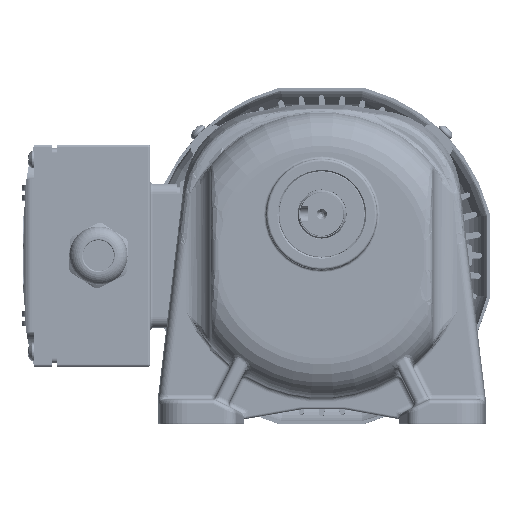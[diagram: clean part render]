
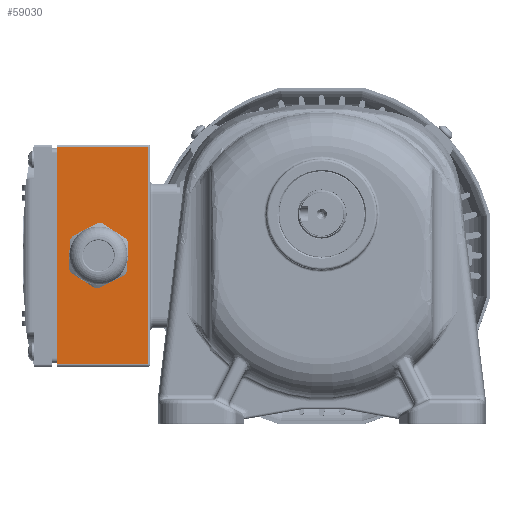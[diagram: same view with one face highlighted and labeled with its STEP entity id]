
A CAD part, top view. The second image highlights one B-rep face of the part: STEP entity #59030.
In plain terms, the highlighted planar face has unit normal (0, 0, 1).
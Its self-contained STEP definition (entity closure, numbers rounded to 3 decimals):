
#1074=LINE('',#90215,#4193);
#1098=LINE('',#90327,#4217);
#1099=LINE('',#90329,#4218);
#1100=LINE('',#90331,#4219);
#1101=LINE('',#90333,#4220);
#1102=LINE('',#90335,#4221);
#1677=LINE('',#92358,#4796);
#1679=LINE('',#92373,#4798);
#1681=LINE('',#92379,#4800);
#1682=LINE('',#92380,#4801);
#4193=VECTOR('',#70959,10.);
#4217=VECTOR('',#71061,10.);
#4218=VECTOR('',#71064,10.);
#4219=VECTOR('',#71067,10.);
#4220=VECTOR('',#71070,10.);
#4221=VECTOR('',#71073,10.);
#4796=VECTOR('',#72746,10.);
#4798=VECTOR('',#72768,10.);
#4800=VECTOR('',#72774,10.);
#4801=VECTOR('',#72775,10.);
#10858=FACE_BOUND('',#15782,.T.);
#11891=FACE_OUTER_BOUND('',#15781,.T.);
#15781=EDGE_LOOP('',(#40215,#40216,#40217,#40218));
#15782=EDGE_LOOP('',(#40219,#40220,#40221,#40222,#40223,#40224,#40225,#40226,
#40227,#40228,#40229,#40230));
#19568=CIRCLE('',#62769,13.);
#19570=CIRCLE('',#62772,13.);
#19572=CIRCLE('',#62775,13.);
#19574=CIRCLE('',#62778,13.);
#19576=CIRCLE('',#62781,13.);
#19578=CIRCLE('',#62784,13.);
#23406=VERTEX_POINT('',#90161);
#23408=VERTEX_POINT('',#90165);
#23410=VERTEX_POINT('',#90170);
#23412=VERTEX_POINT('',#90174);
#23414=VERTEX_POINT('',#90179);
#23416=VERTEX_POINT('',#90183);
#23418=VERTEX_POINT('',#90188);
#23420=VERTEX_POINT('',#90192);
#23422=VERTEX_POINT('',#90197);
#23424=VERTEX_POINT('',#90201);
#23426=VERTEX_POINT('',#90206);
#23428=VERTEX_POINT('',#90210);
#24053=VERTEX_POINT('',#92354);
#24054=VERTEX_POINT('',#92356);
#24057=VERTEX_POINT('',#92372);
#24059=VERTEX_POINT('',#92378);
#29141=EDGE_CURVE('',#23406,#23408,#19568,.T.);
#29145=EDGE_CURVE('',#23410,#23412,#19570,.T.);
#29149=EDGE_CURVE('',#23414,#23416,#19572,.T.);
#29153=EDGE_CURVE('',#23418,#23420,#19574,.T.);
#29157=EDGE_CURVE('',#23422,#23424,#19576,.T.);
#29161=EDGE_CURVE('',#23426,#23428,#19578,.T.);
#29163=EDGE_CURVE('',#23428,#23406,#1074,.T.);
#29212=EDGE_CURVE('',#23408,#23410,#1098,.T.);
#29213=EDGE_CURVE('',#23424,#23426,#1099,.T.);
#29214=EDGE_CURVE('',#23420,#23422,#1100,.T.);
#29215=EDGE_CURVE('',#23416,#23418,#1101,.T.);
#29216=EDGE_CURVE('',#23412,#23414,#1102,.T.);
#30072=EDGE_CURVE('',#24054,#24053,#1677,.T.);
#30079=EDGE_CURVE('',#24053,#24057,#1679,.T.);
#30082=EDGE_CURVE('',#24059,#24054,#1681,.T.);
#30083=EDGE_CURVE('',#24059,#24057,#1682,.T.);
#40215=ORIENTED_EDGE('',*,*,#30072,.F.);
#40216=ORIENTED_EDGE('',*,*,#30082,.F.);
#40217=ORIENTED_EDGE('',*,*,#30083,.T.);
#40218=ORIENTED_EDGE('',*,*,#30079,.F.);
#40219=ORIENTED_EDGE('',*,*,#29161,.T.);
#40220=ORIENTED_EDGE('',*,*,#29163,.T.);
#40221=ORIENTED_EDGE('',*,*,#29141,.T.);
#40222=ORIENTED_EDGE('',*,*,#29212,.T.);
#40223=ORIENTED_EDGE('',*,*,#29145,.T.);
#40224=ORIENTED_EDGE('',*,*,#29216,.T.);
#40225=ORIENTED_EDGE('',*,*,#29149,.T.);
#40226=ORIENTED_EDGE('',*,*,#29215,.T.);
#40227=ORIENTED_EDGE('',*,*,#29153,.T.);
#40228=ORIENTED_EDGE('',*,*,#29214,.T.);
#40229=ORIENTED_EDGE('',*,*,#29157,.T.);
#40230=ORIENTED_EDGE('',*,*,#29213,.T.);
#55081=PLANE('',#63389);
#59030=ADVANCED_FACE('',(#11891,#10858),#55081,.T.);
#62769=AXIS2_PLACEMENT_3D('',#90167,#70914,#70915);
#62772=AXIS2_PLACEMENT_3D('',#90176,#70922,#70923);
#62775=AXIS2_PLACEMENT_3D('',#90185,#70930,#70931);
#62778=AXIS2_PLACEMENT_3D('',#90194,#70938,#70939);
#62781=AXIS2_PLACEMENT_3D('',#90203,#70946,#70947);
#62784=AXIS2_PLACEMENT_3D('',#90212,#70954,#70955);
#63389=AXIS2_PLACEMENT_3D('',#92377,#72772,#72773);
#70914=DIRECTION('center_axis',(0.,0.,
-1.));
#70915=DIRECTION('ref_axis',(-0.051,-0.999,0.));
#70922=DIRECTION('center_axis',(0.,0.,
-1.));
#70923=DIRECTION('ref_axis',(-0.051,-0.999,0.));
#70930=DIRECTION('center_axis',(0.,0.,
-1.));
#70931=DIRECTION('ref_axis',(-0.051,-0.999,0.));
#70938=DIRECTION('center_axis',(0.,0.,
-1.));
#70939=DIRECTION('ref_axis',(-0.051,-0.999,0.));
#70946=DIRECTION('center_axis',(0.,0.,
-1.));
#70947=DIRECTION('ref_axis',(-0.051,-0.999,0.));
#70954=DIRECTION('center_axis',(0.,0.,
-1.));
#70955=DIRECTION('ref_axis',(-0.051,-0.999,0.));
#70959=DIRECTION('',(0.051,0.999,0.));
#71061=DIRECTION('',(0.891,0.455,0.));
#71064=DIRECTION('',(-0.839,0.544,0.));
#71067=DIRECTION('',(-0.891,-0.455,0.));
#71070=DIRECTION('',(-0.051,-0.999,0.));
#71073=DIRECTION('',(0.839,-0.544,0.));
#72746=DIRECTION('',(0.,-1.,0.));
#72768=DIRECTION('',(-1.,0.,0.));
#72772=DIRECTION('center_axis',(0.,0.,
1.));
#72773=DIRECTION('ref_axis',(1.,0.,0.));
#72774=DIRECTION('',(1.,0.,0.));
#72775=DIRECTION('',(0.,-1.,0.));
#90161=CARTESIAN_POINT('',(-82.345,13.865,-84.));
#90165=CARTESIAN_POINT('',(-80.936,16.039,-84.));
#90167=CARTESIAN_POINT('Origin',(-70.786,7.916,-84.));
#90170=CARTESIAN_POINT('',(-71.414,20.901,-84.));
#90174=CARTESIAN_POINT('',(-68.827,20.768,-84.));
#90176=CARTESIAN_POINT('Origin',(-70.786,7.916,-84.));
#90179=CARTESIAN_POINT('',(-59.855,14.953,-84.));
#90183=CARTESIAN_POINT('',(-58.676,12.645,-84.));
#90185=CARTESIAN_POINT('Origin',(-70.786,7.916,-84.));
#90188=CARTESIAN_POINT('',(-59.226,1.968,-84.));
#90192=CARTESIAN_POINT('',(-60.635,-0.206,-84.));
#90194=CARTESIAN_POINT('Origin',(-70.786,7.916,-84.));
#90197=CARTESIAN_POINT('',(-70.157,-5.069,-84.));
#90201=CARTESIAN_POINT('',(-72.745,-4.935,-84.));
#90203=CARTESIAN_POINT('Origin',(-70.786,7.916,-84.));
#90206=CARTESIAN_POINT('',(-81.717,0.88,-84.));
#90210=CARTESIAN_POINT('',(-82.895,3.187,-84.));
#90212=CARTESIAN_POINT('Origin',(-70.786,7.916,-84.));
#90215=CARTESIAN_POINT('',(-81.26,34.922,-84.));
#90327=CARTESIAN_POINT('',(-55.687,28.932,-84.));
#90329=CARTESIAN_POINT('',(-82.976,1.696,-84.));
#90331=CARTESIAN_POINT('',(-51.001,4.714,-84.));
#90333=CARTESIAN_POINT('',(-57.944,26.87,-84.));
#90335=CARTESIAN_POINT('',(-64.345,17.863,-84.));
#92354=CARTESIAN_POINT('',(-50.786,-36.084,-84.));
#92356=CARTESIAN_POINT('',(-50.786,51.916,-84.));
#92358=CARTESIAN_POINT('',(-50.786,30.416,-84.));
#92372=CARTESIAN_POINT('',(-87.786,-36.084,-84.));
#92373=CARTESIAN_POINT('',(-49.786,-36.084,-84.));
#92377=CARTESIAN_POINT('Origin',(-49.786,52.916,-84.));
#92378=CARTESIAN_POINT('',(-87.786,51.916,-84.));
#92379=CARTESIAN_POINT('',(-49.786,51.916,-84.));
#92380=CARTESIAN_POINT('',(-87.786,-37.084,-84.));
